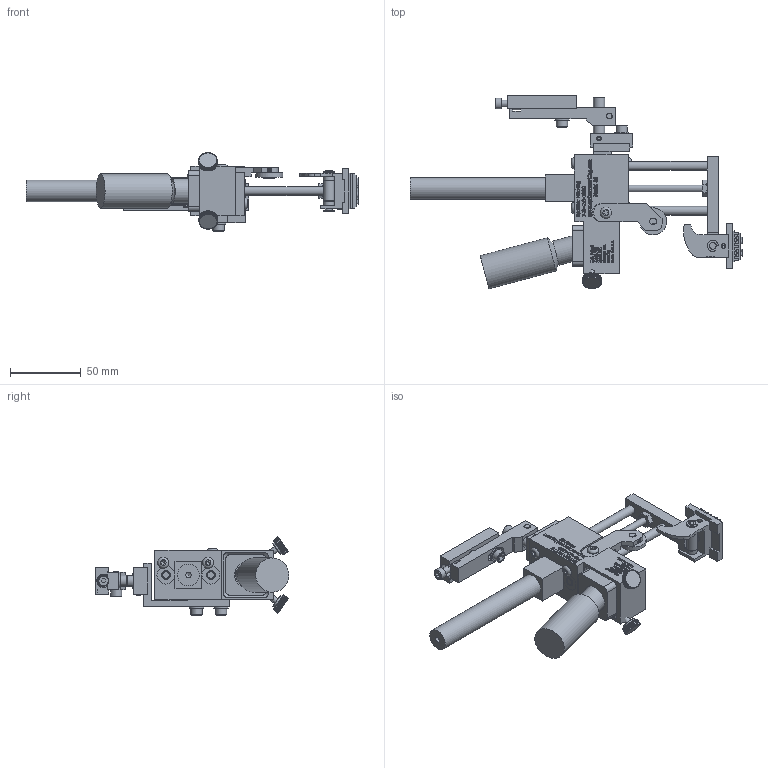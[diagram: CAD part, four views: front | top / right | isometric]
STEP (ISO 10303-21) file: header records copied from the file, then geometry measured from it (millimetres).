
FILE_DESCRIPTION((''),'2;1');
FILE_NAME('C:\Documents and Settings\Ron\My Documents\Inventor\Sprinter Drawing\Machines in Inventor\Model 88\Type\Std\Brkt\Ext\Model 88 STD extended w brkt mod 2012.stp','2012-03-16T07:50:11',('Ron'),(''),'Autodesk Inventor 2011','Autodesk Inventor 2011','');
FILE_SCHEMA(('AUTOMOTIVE_DESIGN { 1 0 10303 214 1 1 1 1 }'));
Length unit declared in the file: inch
Products named in the file (44): Model 88  STD extended w brkt mod 2012; 88 Frame Body; 66 Linear Bearing; Hexagon Socket Button Head Cap Screw - Inch 8 - 32 x 1/4; Hexagon Socket Head Cap Screw - Inch No. 8 - 32 UNC - 1 1/2; 10 Ink Resevior Lock Screw; INK RESERVOIR ASSY; 88 RESERVOIR; 88 Ink Pad; 66 INK BOTTLE; 88 STD Wheel Bractet Assy (prototype); 44 Wheel Retainer; 44 Cam Wheel; 88 Wheel Bracket Arm (prototype); Hexagon Socket Set Screw - Flat Point - Inch 4-48 UNF x 0.19; 8-32x0.25 Hexagon Socket Button Head Cap Screw ANSI/ASME B18.3; Standard Extended; 88 Rod Carrier Extended STD; 88 Rod Carrier; Type A - Hexagon Socket Set Screw - Cup Point - Inch 8-32 UNC x 0.32; 66 PIVOT SHAFT; 66 PIVOT SHAFT LOCKING RING; 23 66 invert block; AS 1112 (4)  - Metric M6; 66 Spring; 19 Rod Carrier Set Screws; 88 CLIP FOR MODELS(2); 88--CLIP plate; Hexagon Socket Set Screw - Flat Point - Inch 6-32 UNC x 0.45; 88 baselock (model sized); 88 baselock STAMP; Model 88, std -00; Hexagon Socket Set Screw - Flat Point - Inch 8-32 UNC x 0.32; Model 88 RPB; rpb4; rpb3; rpb-1; rpb2; No. 10-24x0.88 Hexagon socket head cap screw ANSI/ASME B18.3; Type B - Plain Washer (Inch) No. 10 - narrow - Type B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
Assembly tree (59 placements, depth 4):
  Model 88  STD extended w brkt mod 2012
    88 Frame Body
    66 Linear Bearing  x2
    Hexagon Socket Button Head Cap Screw - Inch 8 - 32 x 1/4  x4
    Hexagon Socket Head Cap Screw - Inch No. 8 - 32 UNC - 1 1/2  x2
    10 Ink Resevior Lock Screw  x2
    INK RESERVOIR ASSY
      88 RESERVOIR
      88 Ink Pad
      66 INK BOTTLE
    88 STD Wheel Bractet Assy (prototype)
      44 Wheel Retainer
      44 Cam Wheel
      88 Wheel Bracket Arm (prototype)
      Hexagon Socket Set Screw - Flat Point - Inch 4-48 UNF x 0.19
    8-32x0.25 Hexagon Socket Button Head Cap Screw ANSI/ASME B18.3
    Standard Extended
    88 Rod Carrier Extended STD
      88 Rod Carrier
      Type A - Hexagon Socket Set Screw - Cup Point - Inch 8-32 UNC x 0.32
      66 PIVOT SHAFT
      66 PIVOT SHAFT LOCKING RING  x2
      23 66 invert block
      AS 1112 (4)  - Metric M6
      66 Spring
      19 Rod Carrier Set Screws  x2
      88 CLIP FOR MODELS(2)
        88--CLIP plate
        Hexagon Socket Set Screw - Flat Point - Inch 6-32 UNC x 0.45
        88 baselock (model sized)
        88 baselock STAMP
      Model 88, std -00  x2
      Hexagon Socket Set Screw - Flat Point - Inch 8-32 UNC x 0.32
    Model 88 RPB
      rpb4
      rpb3
      rpb-1
      rpb2
      No. 10-24x0.88 Hexagon socket head cap screw ANSI/ASME B18.3  x5
      Type B - Plain Washer (Inch) No. 10 - narrow - Type B  x4
      66 Machine Mounting Pivot Bracket
      Pin - Hardened Ground Machine Dowel (Inch) 1/8 x 3/4
      Pin - Hardened Ground Machine Dowel (Inch) 1/8 x 3/8
    10-32 PORTS DECAL
Bounding box: 234.39 x 136.58 x 55.4 mm (x, y, z)
Volume: 199403 mm3; surface area: 96884.7 mm2
Topology: 427 solids, 427 shells, 6413 faces, 15720 edges, 9736 vertices
Faces by surface type: plane 4465, bspline 1294, cylinder 561, cone 70, torus 23
Full cylindrical faces by diameter (mm): 1.143 x1, 2.261 x1, 2.54 x2, 2.642 x1, 2.845 x1, 3.175 x4, 3.2 x1, 3.302 x14, 3.505 x1, 3.556 x1, 3.683 x2, 3.962 x10, 4.064 x2, 4.166 x11, 4.547 x2, 4.699 x3, 4.75 x4, 4.775 x2, 4.826 x8, 4.864 x2, 4.917 x1, 5.055 x1, 5.156 x7, 5.359 x1, 5.556 x1, 6.325 x4, 6.35 x7, 6.426 x1, 6.604 x1, 6.858 x2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
Entity records: 152765 total; most frequent: CARTESIAN_POINT 45406, ORIENTED_EDGE 23888, DIRECTION 17284, EDGE_CURVE 11944, VECTOR 8532, LINE 8532, VERTEX_POINT 7674, EDGE_LOOP 5354
